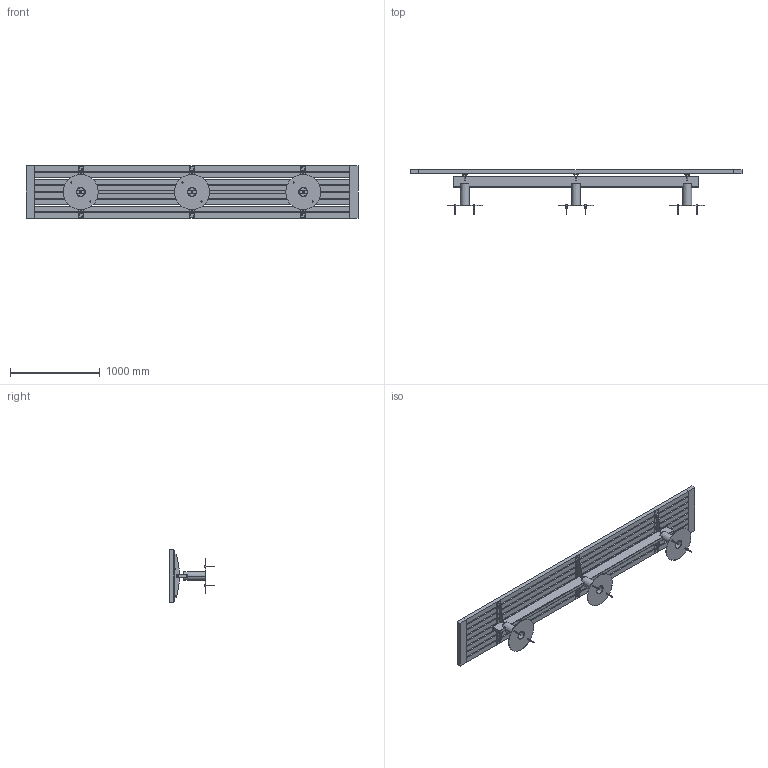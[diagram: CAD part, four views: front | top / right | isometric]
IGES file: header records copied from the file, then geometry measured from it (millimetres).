
Start section: SolidWorks IGES file using analytic representation for surfaces
Global section: file name: C:\SANTACOLE_PDM\Proyectos Catálogo\PROD-P05-013 -- NU\6_Técnico comercial\3D WEB\NU 3.70 sin respaldo.IGS; native system: SolidWorks 2013; preprocessor: SolidWorks 2013; author: jordi.munoz; date: 150409.171856; units: millimetre
Bounding box: 3700 x 497.38 x 585 mm (x, y, z)
Volume: 86473880.9 mm3; surface area: 9945898.5 mm2
Topology: 100 solids, 100 shells, 3996 faces, 9874 edges, 6146 vertices
Faces by surface type: revolution 1985, plane 1739, bspline 272
